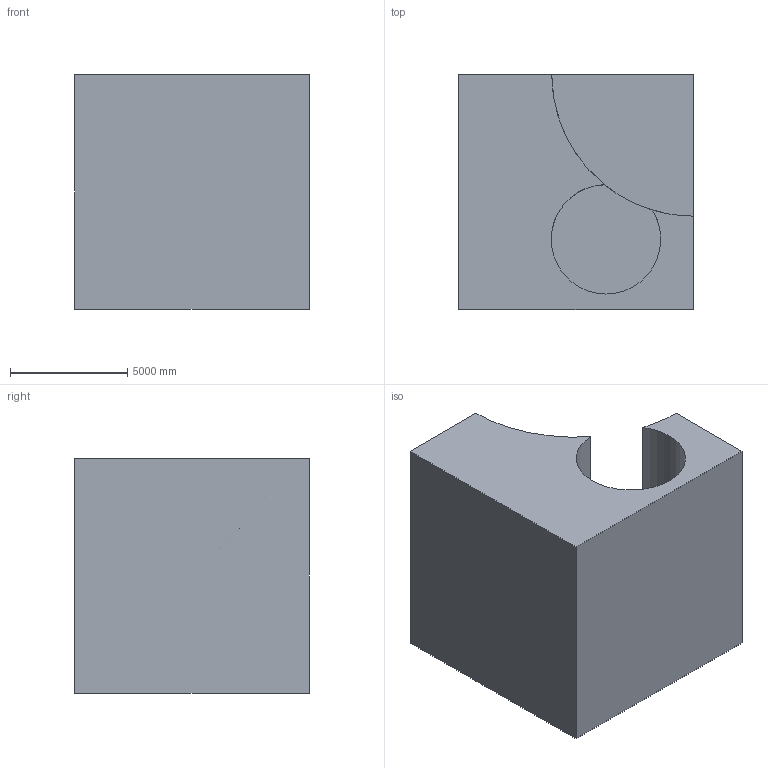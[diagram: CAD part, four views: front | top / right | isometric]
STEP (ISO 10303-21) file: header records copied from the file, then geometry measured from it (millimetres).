
FILE_DESCRIPTION (( 'STEP AP203' ), '1' );
FILE_NAME ('108.STEP', '2022-09-06T13:17:18', ( 'user' ), ( '' ), 'SwSTEP 2.0', 'SolidWorks 2021', '' );
FILE_SCHEMA (( 'CONFIG_CONTROL_DESIGN' ));
Length unit declared in the file: centimetre
Products named in the file (1): 108
Bounding box: 10000 x 10000 x 10000 mm (x, y, z)
Volume: 739369998943.2 mm3; surface area: 631890766.6 mm2
Topology: 1 solids, 1 shells, 12 faces, 30 edges, 20 vertices
Faces by surface type: plane 8, cylinder 4
Entity records: 441 total; most frequent: DIRECTION 66, CARTESIAN_POINT 63, ORIENTED_EDGE 60, EDGE_CURVE 30, AXIS2_PLACEMENT_3D 23, VECTOR 20, LINE 20, VERTEX_POINT 20
